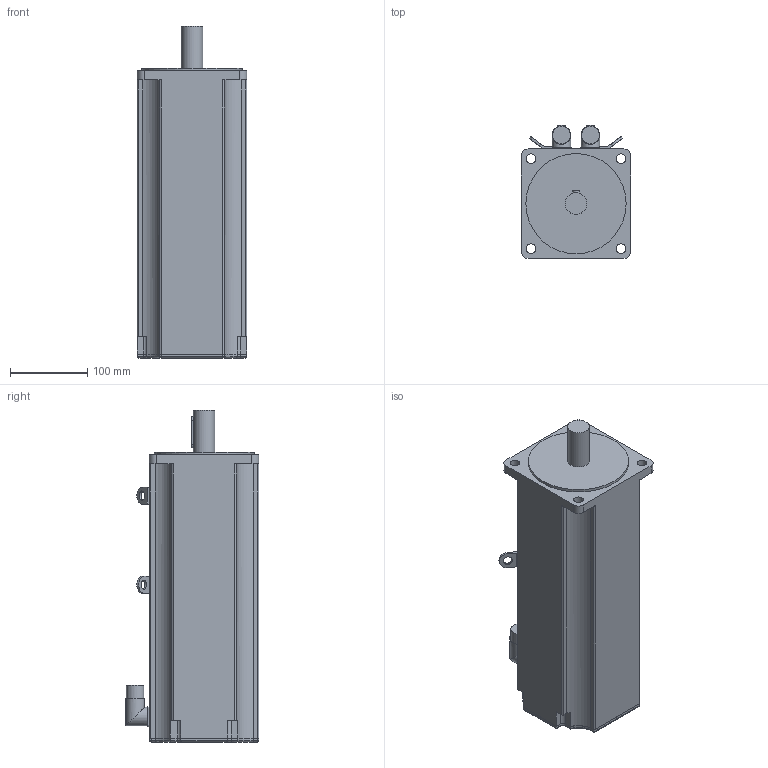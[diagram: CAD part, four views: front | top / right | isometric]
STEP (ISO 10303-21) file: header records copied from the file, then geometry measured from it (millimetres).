
FILE_DESCRIPTION(/* description */ (''),/* implementation_level */ '2;1');
FILE_NAME(/* name */ '\\Lafnas01\disegni\Archivi Lafert\3D\CAD 3D\MODELLI\Assiemi clienti\Serad\Modelli 3D Serad\B71Q\Resolver\Res With Brake\B7129Qxx6B052033.ipt.stp',/* time_stamp */ '2015-09-07T10:52:54+02:00',/* author */ ('Pastrello Ylenia'),/* organization */ (''),/* preprocessor_version */ 'ST-DEVELOPER v15.6',/* originating_system */ 'Autodesk Inventor 2015',/* authorisation */ '');
FILE_SCHEMA (('AUTOMOTIVE_DESIGN { 1 0 10303 214 3 1 1 }'));
Length unit declared in the file: millimetre
Products named in the file (1): B7129Qxx6B052033
Bounding box: 142 x 173.5 x 430.5 mm (x, y, z)
Volume: 6623056.7 mm3; surface area: 251546.4 mm2
Topology: 1 solids, 1 shells, 172 faces, 450 edges, 290 vertices
Faces by surface type: plane 86, cylinder 74, torus 8, sphere 4
Full cylindrical faces by diameter (mm): 12 x2, 12.5 x4, 22.7 x2, 24 x2, 28 x1, 130 x1
Entity records: 5354 total; most frequent: CARTESIAN_POINT 1031, DIRECTION 920, ORIENTED_EDGE 868, EDGE_CURVE 434, AXIS2_PLACEMENT_3D 323, VERTEX_POINT 286, LINE 274, VECTOR 274
